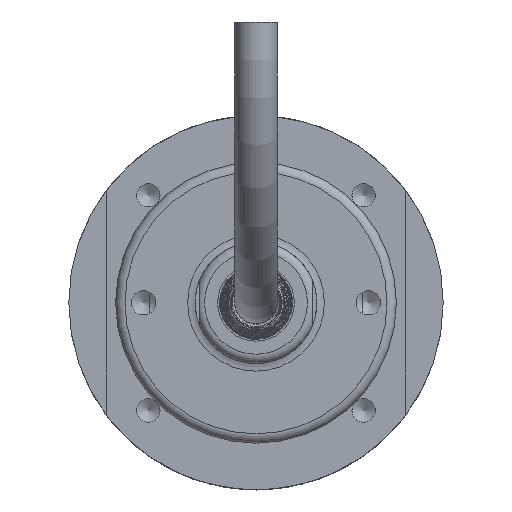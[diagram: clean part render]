
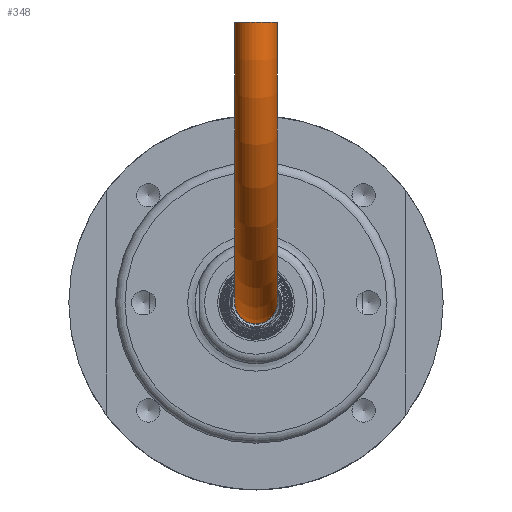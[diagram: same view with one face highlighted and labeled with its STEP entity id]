
A CAD part, front view. The second image highlights one B-rep face of the part: STEP entity #348.
In plain terms, the highlighted toroidal (fillet/blend) face has major radius 30 mm and minor radius 2.25 mm.
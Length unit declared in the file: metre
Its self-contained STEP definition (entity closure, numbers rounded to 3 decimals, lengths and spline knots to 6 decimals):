
#348 = ADVANCED_FACE( '', ( #684, #685 ), #686, .T. );
#684 = FACE_OUTER_BOUND( '', #11983, .T. );
#685 = FACE_OUTER_BOUND( '', #11984, .T. );
#686 = TOROIDAL_SURFACE( '', #11985, 0.03, 0.00225 );
#11983 = EDGE_LOOP( '', ( #13035 ) );
#11984 = EDGE_LOOP( '', ( #13036 ) );
#11985 = AXIS2_PLACEMENT_3D( '', #13037, #13038, #13039 );
#13035 = ORIENTED_EDGE( '', *, *, #13348, .T. );
#13036 = ORIENTED_EDGE( '', *, *, #13263, .F. );
#13037 = CARTESIAN_POINT( '', ( 0., -0.043, 0.03 ) );
#13038 = DIRECTION( '', ( -1., 0., 0. ) );
#13039 = DIRECTION( '', ( 0., 1., 0. ) );
#13263 = EDGE_CURVE( '', #13697, #13697, #13698, .T. );
#13348 = EDGE_CURVE( '', #13841, #13841, #13842, .T. );
#13697 = VERTEX_POINT( '', #18198 );
#13698 = CIRCLE( '', #18199, 0.00225 );
#13841 = VERTEX_POINT( '', #18736 );
#13842 = CIRCLE( '', #18737, 0.00225 );
#18198 = CARTESIAN_POINT( '', ( 0., -0.07075, 0.03 ) );
#18199 = AXIS2_PLACEMENT_3D( '', #19035, #19036, #19037 );
#18736 = CARTESIAN_POINT( '', ( 0.00225, -0.043, 0. ) );
#18737 = AXIS2_PLACEMENT_3D( '', #19165, #19166, #19167 );
#19035 = CARTESIAN_POINT( '', ( 0., -0.073, 0.03 ) );
#19036 = DIRECTION( '', ( 0., 0., 1. ) );
#19037 = DIRECTION( '', ( 0., 1., 0. ) );
#19165 = CARTESIAN_POINT( '', ( 0., -0.043, 0. ) );
#19166 = DIRECTION( '', ( 0., -1., 0. ) );
#19167 = DIRECTION( '', ( 1., 0., 0. ) );
